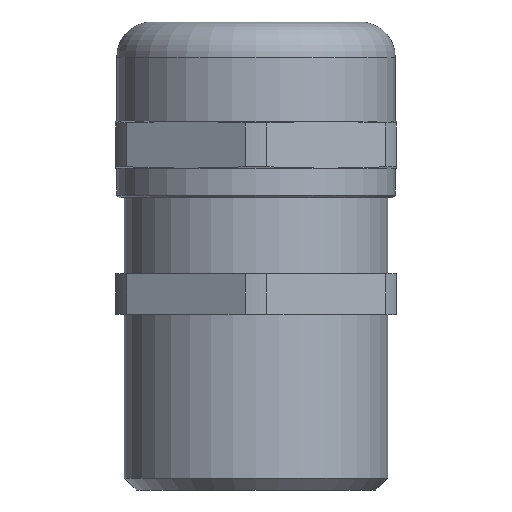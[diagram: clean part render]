
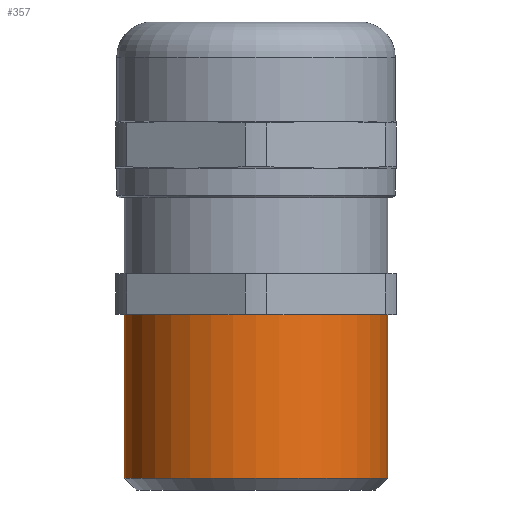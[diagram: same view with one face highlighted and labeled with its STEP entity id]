
A CAD part, front view. The second image highlights one B-rep face of the part: STEP entity #357.
In plain terms, the highlighted cylindrical face has radius 11.25 mm (diameter 22.5 mm), a partial arc.
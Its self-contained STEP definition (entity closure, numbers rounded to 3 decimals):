
#48 = VERTEX_POINT ( 'NONE', #1193 ) ;
#53 = VERTEX_POINT ( 'NONE', #1182 ) ;
#70 = VERTEX_POINT ( 'NONE', #1146 ) ;
#74 = VERTEX_POINT ( 'NONE', #1144 ) ;
#80 = EDGE_CURVE ( 'NONE', #74, #48, #1134, .T. ) ;
#134 = EDGE_CURVE ( 'NONE', #53, #70, #1299, .T. ) ;
#347 = ORIENTED_EDGE ( 'NONE', *, *, #80, .F. ) ;
#348 = ORIENTED_EDGE ( 'NONE', *, *, #349, .T. ) ;
#349 = EDGE_CURVE ( 'NONE', #74, #53, #1484, .T. ) ;
#350 = ORIENTED_EDGE ( 'NONE', *, *, #134, .T. ) ;
#351 = ORIENTED_EDGE ( 'NONE', *, *, #356, .F. ) ;
#356 = EDGE_CURVE ( 'NONE', #48, #70, #1769, .T. ) ;
#357 = ADVANCED_FACE ( 'NONE', ( #1765 ), #1764, .T. ) ;
#358 = EDGE_LOOP ( 'NONE', ( #347, #348, #350, #351 ) ) ;
#1127 = DIRECTION ( 'NONE',  ( 0., 0., -1. ) ) ;
#1128 = VECTOR ( 'NONE', #1127, 1000. ) ;
#1129 = CARTESIAN_POINT ( 'NONE',  ( 11.25, 0., 0. ) ) ;
#1134 = LINE ( 'NONE', #1129, #1128 ) ;
#1144 = CARTESIAN_POINT ( 'NONE',  ( 11.25, 0., 15. ) ) ;
#1146 = CARTESIAN_POINT ( 'NONE',  ( -11.25, 0., 1. ) ) ;
#1182 = CARTESIAN_POINT ( 'NONE',  ( -11.25, 0., 15. ) ) ;
#1193 = CARTESIAN_POINT ( 'NONE',  ( 11.25, 0., 1. ) ) ;
#1296 = DIRECTION ( 'NONE',  ( 0., 0., -1. ) ) ;
#1297 = VECTOR ( 'NONE', #1296, 1000. ) ;
#1298 = CARTESIAN_POINT ( 'NONE',  ( -11.25, 0., 0. ) ) ;
#1299 = LINE ( 'NONE', #1298, #1297 ) ;
#1480 = DIRECTION ( 'NONE',  ( -1., 0., 0. ) ) ;
#1481 = DIRECTION ( 'NONE',  ( 0., 0., -1. ) ) ;
#1482 = CARTESIAN_POINT ( 'NONE',  ( 0., 0., 15. ) ) ;
#1483 = AXIS2_PLACEMENT_3D ( 'NONE', #1482, #1481, #1480 ) ;
#1484 = CIRCLE ( 'NONE', #1483, 11.25 ) ;
#1708 = CARTESIAN_POINT ( 'NONE',  ( 0., 0., 1. ) ) ;
#1759 = DIRECTION ( 'NONE',  ( -1., 0., 0. ) ) ;
#1760 = DIRECTION ( 'NONE',  ( 0., 0., -1. ) ) ;
#1761 = CARTESIAN_POINT ( 'NONE',  ( 0., 0., 0. ) ) ;
#1762 = AXIS2_PLACEMENT_3D ( 'NONE', #1761, #1760, #1759 ) ;
#1764 = CYLINDRICAL_SURFACE ( 'NONE', #1762, 11.25 ) ;
#1765 = FACE_OUTER_BOUND ( 'NONE', #358, .T. ) ;
#1766 = DIRECTION ( 'NONE',  ( -1., 0., 0. ) ) ;
#1767 = DIRECTION ( 'NONE',  ( 0., 0., -1. ) ) ;
#1768 = AXIS2_PLACEMENT_3D ( 'NONE', #1708, #1767, #1766 ) ;
#1769 = CIRCLE ( 'NONE', #1768, 11.25 ) ;
